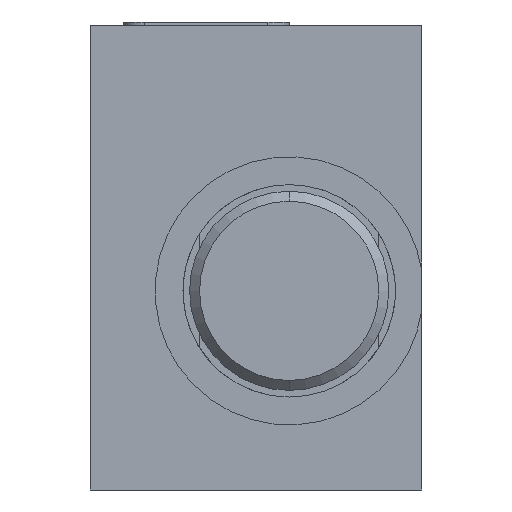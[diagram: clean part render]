
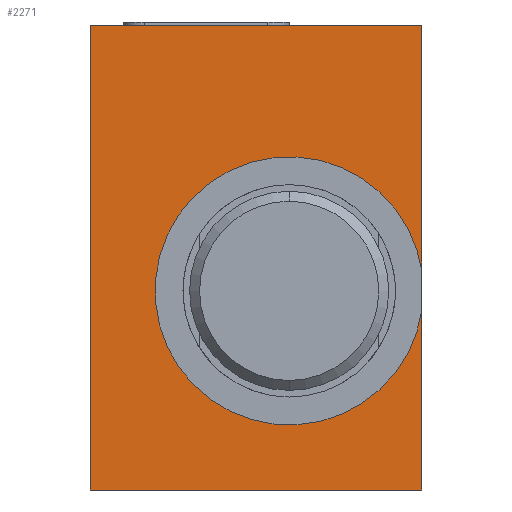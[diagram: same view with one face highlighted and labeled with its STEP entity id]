
A CAD part, left-side view. The second image highlights one B-rep face of the part: STEP entity #2271.
In plain terms, the highlighted planar face has unit normal (-1, 0, 0).
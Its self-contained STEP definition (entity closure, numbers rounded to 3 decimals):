
#47=DIRECTION('',(0.,-1.,0.));
#48=VECTOR('',#47,50.);
#49=CARTESIAN_POINT('',(0.,50.,0.));
#50=LINE('',#49,#48);
#244=DIRECTION('',(0.,0.,-1.));
#245=VECTOR('',#244,37.165);
#246=CARTESIAN_POINT('',(0.,0.,0.));
#247=LINE('',#246,#245);
#251=DIRECTION('',(0.,0.,-1.));
#252=VECTOR('',#251,27.165);
#253=CARTESIAN_POINT('',(0.,0.,-42.835));
#254=LINE('',#253,#252);
#444=DIRECTION('',(0.,0.,-1.));
#445=VECTOR('',#444,70.);
#446=CARTESIAN_POINT('',(0.,50.,0.));
#447=LINE('',#446,#445);
#451=CARTESIAN_POINT('',(0.,20.,-40.));
#452=DIRECTION('',(1.,0.,0.));
#453=DIRECTION('',(0.,-0.99,-0.14));
#454=AXIS2_PLACEMENT_3D('',#451,#452,#453);
#951=DIRECTION('',(0.,-1.,0.));
#952=VECTOR('',#951,50.);
#953=CARTESIAN_POINT('',(0.,50.,-70.));
#954=LINE('',#953,#952);
#1783=CARTESIAN_POINT('',(0.,0.,0.));
#1785=VERTEX_POINT('',#1783);
#1789=CARTESIAN_POINT('',(0.,50.,0.));
#1790=VERTEX_POINT('',#1789);
#1791=CARTESIAN_POINT('',(0.,0.,-70.));
#1793=VERTEX_POINT('',#1791);
#1797=CARTESIAN_POINT('',(0.,50.,-70.));
#1798=VERTEX_POINT('',#1797);
#1921=CARTESIAN_POINT('',(0.,0.,-37.165));
#1922=VERTEX_POINT('',#1921);
#1923=CARTESIAN_POINT('',(0.,0.,-42.835));
#1924=VERTEX_POINT('',#1923);
#2256=CARTESIAN_POINT('',(0.,50.,0.));
#2257=DIRECTION('',(-1.,0.,0.));
#2258=DIRECTION('',(0.,-1.,0.));
#2259=AXIS2_PLACEMENT_3D('',#2256,#2257,#2258);
#2260=PLANE('',#2259);
#2262=ORIENTED_EDGE('',*,*,#2261,.F.);
#2263=ORIENTED_EDGE('',*,*,#2096,.T.);
#2265=ORIENTED_EDGE('',*,*,#2264,.F.);
#2266=ORIENTED_EDGE('',*,*,#2195,.F.);
#2267=ORIENTED_EDGE('',*,*,#2063,.T.);
#2268=ORIENTED_EDGE('',*,*,#2089,.T.);
#2269=EDGE_LOOP('',(#2262,#2263,#2265,#2266,#2267,#2268));
#2270=FACE_OUTER_BOUND('',#2269,.F.);
#455=CIRCLE('',#454,20.2);
#2063=EDGE_CURVE('',#1790,#1785,#50,.T.);
#2089=EDGE_CURVE('',#1785,#1922,#247,.T.);
#2096=EDGE_CURVE('',#1924,#1793,#254,.T.);
#2195=EDGE_CURVE('',#1790,#1798,#447,.T.);
#2261=EDGE_CURVE('',#1924,#1922,#455,.T.);
#2264=EDGE_CURVE('',#1798,#1793,#954,.T.);
#2271=ADVANCED_FACE('',(#2270),#2260,.T.);
